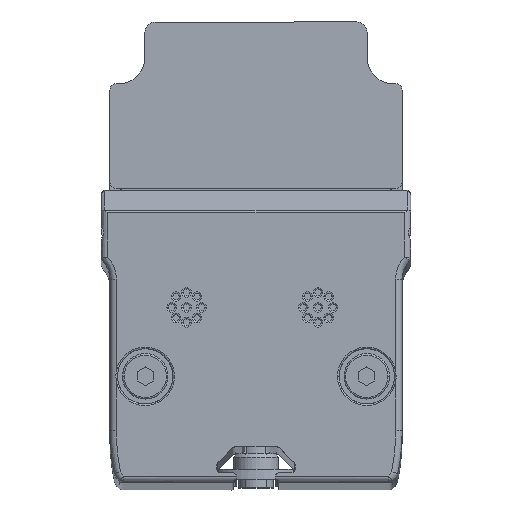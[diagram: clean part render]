
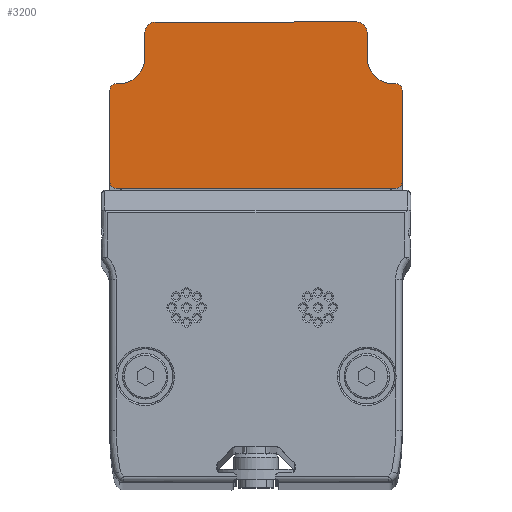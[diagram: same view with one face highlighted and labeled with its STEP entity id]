
A CAD part, top view. The second image highlights one B-rep face of the part: STEP entity #3200.
In plain terms, the highlighted planar face has unit normal (0, 0, 1).
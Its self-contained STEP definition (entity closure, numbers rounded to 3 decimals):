
#54 = ORIENTED_EDGE ( 'NONE', *, *, #11064, .T. ) ;
#389 = VERTEX_POINT ( 'NONE', #29806 ) ;
#431 = CIRCLE ( 'NONE', #2018, 1.6 ) ;
#682 = ORIENTED_EDGE ( 'NONE', *, *, #13058, .T. ) ;
#956 = VECTOR ( 'NONE', #17944, 1000. ) ;
#1405 = DIRECTION ( 'NONE',  ( 0., 0., 1. ) ) ;
#1727 = CARTESIAN_POINT ( 'NONE',  ( 21.5, 37.9, 629. ) ) ;
#1935 = ORIENTED_EDGE ( 'NONE', *, *, #29493, .F. ) ;
#2018 = AXIS2_PLACEMENT_3D ( 'NONE', #5862, #24025, #26695 ) ;
#2459 = VERTEX_POINT ( 'NONE', #20578 ) ;
#2472 = DIRECTION ( 'NONE',  ( 0., -1., 0. ) ) ;
#2947 = CARTESIAN_POINT ( 'NONE',  ( -17.1, 0., 629. ) ) ;
#3047 = DIRECTION ( 'NONE',  ( 0., 0., -1. ) ) ;
#3196 = DIRECTION ( 'NONE',  ( -1., 0., 0. ) ) ;
#3200 = ADVANCED_FACE ( 'NONE', ( #23100 ), #18306, .T. ) ;
#3256 = AXIS2_PLACEMENT_3D ( 'NONE', #23347, #3047, #3196 ) ;
#3384 = VECTOR ( 'NONE', #23831, 1000. ) ;
#3852 = CIRCLE ( 'NONE', #26564, 1. ) ;
#4373 = CARTESIAN_POINT ( 'NONE',  ( -22.5, 23.8, 629. ) ) ;
#4778 = CARTESIAN_POINT ( 'NONE',  ( -17.1, 46.8, 629. ) ) ;
#5302 = CARTESIAN_POINT ( 'NONE',  ( 22.5, 37.9, 629. ) ) ;
#5417 = EDGE_CURVE ( 'NONE', #6457, #14423, #30647, .T. ) ;
#5784 = EDGE_CURVE ( 'NONE', #31096, #25079, #22811, .T. ) ;
#5862 = CARTESIAN_POINT ( 'NONE',  ( -15.5, 46.8, 629. ) ) ;
#5940 = CARTESIAN_POINT ( 'NONE',  ( 17.1, 46.8, 629. ) ) ;
#6216 = EDGE_CURVE ( 'NONE', #20663, #9182, #28694, .T. ) ;
#6256 = EDGE_CURVE ( 'NONE', #14423, #11058, #24651, .T. ) ;
#6457 = VERTEX_POINT ( 'NONE', #15764 ) ;
#6806 = EDGE_CURVE ( 'NONE', #389, #2459, #3852, .T. ) ;
#7487 = EDGE_CURVE ( 'NONE', #31096, #19055, #17521, .T. ) ;
#7974 = ORIENTED_EDGE ( 'NONE', *, *, #7487, .F. ) ;
#7987 = ORIENTED_EDGE ( 'NONE', *, *, #18157, .T. ) ;
#8159 = AXIS2_PLACEMENT_3D ( 'NONE', #9989, #30189, #32515 ) ;
#8523 = CARTESIAN_POINT ( 'NONE',  ( -17.1, 42.9, 629. ) ) ;
#8698 = AXIS2_PLACEMENT_3D ( 'NONE', #13798, #31824, #23865 ) ;
#9017 = DIRECTION ( 'NONE',  ( 0., -1., 0. ) ) ;
#9182 = VERTEX_POINT ( 'NONE', #20494 ) ;
#9923 = CARTESIAN_POINT ( 'NONE',  ( 0., 0., 629. ) ) ;
#9989 = CARTESIAN_POINT ( 'NONE',  ( 21.1, 42.9, 629. ) ) ;
#10442 = ORIENTED_EDGE ( 'NONE', *, *, #28668, .T. ) ;
#11058 = VERTEX_POINT ( 'NONE', #23538 ) ;
#11064 = EDGE_CURVE ( 'NONE', #17054, #9182, #23479, .T. ) ;
#11620 = ORIENTED_EDGE ( 'NONE', *, *, #31702, .T. ) ;
#11801 = EDGE_LOOP ( 'NONE', ( #24988, #32374, #24703, #54, #30499, #10442, #16737, #21060, #11620, #7987, #15157, #7974, #17259, #1935, #32048, #682 ) ) ;
#11849 = CIRCLE ( 'NONE', #8159, 4. ) ;
#12555 = AXIS2_PLACEMENT_3D ( 'NONE', #23001, #27994, #20205 ) ;
#12771 = LINE ( 'NONE', #22854, #24757 ) ;
#12899 = DIRECTION ( 'NONE',  ( 1., 0., 0. ) ) ;
#13058 = EDGE_CURVE ( 'NONE', #23747, #13060, #27124, .T. ) ;
#13060 = VERTEX_POINT ( 'NONE', #21272 ) ;
#13066 = CARTESIAN_POINT ( 'NONE',  ( 17.1, 42.9, 629. ) ) ;
#13184 = DIRECTION ( 'NONE',  ( 0., 0., 1. ) ) ;
#13261 = DIRECTION ( 'NONE',  ( 0., 1., 0. ) ) ;
#13345 = DIRECTION ( 'NONE',  ( 0., 0., -1. ) ) ;
#13639 = DIRECTION ( 'NONE',  ( -1., 0., 0. ) ) ;
#13798 = CARTESIAN_POINT ( 'NONE',  ( -21.5, 23.8, 629. ) ) ;
#13848 = CARTESIAN_POINT ( 'NONE',  ( -21.1, 42.9, 629. ) ) ;
#14053 = VECTOR ( 'NONE', #28128, 1000. ) ;
#14423 = VERTEX_POINT ( 'NONE', #5302 ) ;
#14748 = VERTEX_POINT ( 'NONE', #4778 ) ;
#15157 = ORIENTED_EDGE ( 'NONE', *, *, #30434, .F. ) ;
#15207 = VERTEX_POINT ( 'NONE', #13066 ) ;
#15764 = CARTESIAN_POINT ( 'NONE',  ( 22.5, 23.8, 629. ) ) ;
#15769 = CARTESIAN_POINT ( 'NONE',  ( -22.5, 0., 629. ) ) ;
#16163 = CARTESIAN_POINT ( 'NONE',  ( 0., 48.4, 629. ) ) ;
#16584 = EDGE_CURVE ( 'NONE', #14748, #23747, #22461, .T. ) ;
#16634 = CARTESIAN_POINT ( 'NONE',  ( 17.1, 0., 629. ) ) ;
#16737 = ORIENTED_EDGE ( 'NONE', *, *, #5417, .T. ) ;
#16928 = CARTESIAN_POINT ( 'NONE',  ( 21.1, 38.9, 629. ) ) ;
#17054 = VERTEX_POINT ( 'NONE', #4373 ) ;
#17259 = ORIENTED_EDGE ( 'NONE', *, *, #5784, .T. ) ;
#17521 = CIRCLE ( 'NONE', #3256, 1.6 ) ;
#17944 = DIRECTION ( 'NONE',  ( -1., 0., 0. ) ) ;
#18064 = DIRECTION ( 'NONE',  ( 1., 0., 0. ) ) ;
#18157 = EDGE_CURVE ( 'NONE', #20148, #15207, #11849, .T. ) ;
#18306 = PLANE ( 'NONE',  #28195 ) ;
#19055 = VERTEX_POINT ( 'NONE', #5940 ) ;
#20148 = VERTEX_POINT ( 'NONE', #16928 ) ;
#20205 = DIRECTION ( 'NONE',  ( 1., 0., 0. ) ) ;
#20494 = CARTESIAN_POINT ( 'NONE',  ( -21.5, 22.8, 629. ) ) ;
#20578 = CARTESIAN_POINT ( 'NONE',  ( -22.5, 37.9, 629. ) ) ;
#20663 = VERTEX_POINT ( 'NONE', #20829 ) ;
#20706 = LINE ( 'NONE', #15769, #3384 ) ;
#20829 = CARTESIAN_POINT ( 'NONE',  ( 21.5, 22.8, 629. ) ) ;
#21060 = ORIENTED_EDGE ( 'NONE', *, *, #6256, .T. ) ;
#21272 = CARTESIAN_POINT ( 'NONE',  ( -21.1, 38.9, 629. ) ) ;
#21571 = EDGE_CURVE ( 'NONE', #17054, #2459, #20706, .T. ) ;
#21589 = LINE ( 'NONE', #16634, #29540 ) ;
#22173 = DIRECTION ( 'NONE',  ( 0., 0., 1. ) ) ;
#22358 = AXIS2_PLACEMENT_3D ( 'NONE', #13848, #13345, #31385 ) ;
#22461 = LINE ( 'NONE', #2947, #27646 ) ;
#22811 = LINE ( 'NONE', #16163, #14053 ) ;
#22854 = CARTESIAN_POINT ( 'NONE',  ( 0., 38.9, 629. ) ) ;
#23001 = CARTESIAN_POINT ( 'NONE',  ( 21.5, 23.8, 629. ) ) ;
#23100 = FACE_OUTER_BOUND ( 'NONE', #11801, .T. ) ;
#23347 = CARTESIAN_POINT ( 'NONE',  ( 15.5, 46.8, 629. ) ) ;
#23479 = CIRCLE ( 'NONE', #8698, 1. ) ;
#23538 = CARTESIAN_POINT ( 'NONE',  ( 21.5, 38.9, 629. ) ) ;
#23747 = VERTEX_POINT ( 'NONE', #8523 ) ;
#23831 = DIRECTION ( 'NONE',  ( 0., 1., 0. ) ) ;
#23865 = DIRECTION ( 'NONE',  ( 1., 0., 0. ) ) ;
#24025 = DIRECTION ( 'NONE',  ( 0., 0., -1. ) ) ;
#24130 = VECTOR ( 'NONE', #13639, 1000. ) ;
#24651 = CIRCLE ( 'NONE', #29952, 1. ) ;
#24673 = CARTESIAN_POINT ( 'NONE',  ( -21.5, 37.9, 629. ) ) ;
#24703 = ORIENTED_EDGE ( 'NONE', *, *, #21571, .F. ) ;
#24757 = VECTOR ( 'NONE', #18064, 1000. ) ;
#24988 = ORIENTED_EDGE ( 'NONE', *, *, #32093, .F. ) ;
#25079 = VERTEX_POINT ( 'NONE', #31890 ) ;
#25512 = CARTESIAN_POINT ( 'NONE',  ( 22.5, 0., 629. ) ) ;
#26464 = VECTOR ( 'NONE', #13261, 1000. ) ;
#26564 = AXIS2_PLACEMENT_3D ( 'NONE', #24673, #22173, #12899 ) ;
#26695 = DIRECTION ( 'NONE',  ( -1., 0., 0. ) ) ;
#26714 = DIRECTION ( 'NONE',  ( 1., 0., 0. ) ) ;
#27124 = CIRCLE ( 'NONE', #22358, 4. ) ;
#27646 = VECTOR ( 'NONE', #2472, 1000. ) ;
#27994 = DIRECTION ( 'NONE',  ( 0., 0., 1. ) ) ;
#28128 = DIRECTION ( 'NONE',  ( -1., 0., 0. ) ) ;
#28195 = AXIS2_PLACEMENT_3D ( 'NONE', #9923, #13184, #30726 ) ;
#28200 = CARTESIAN_POINT ( 'NONE',  ( 0., 38.9, 629. ) ) ;
#28668 = EDGE_CURVE ( 'NONE', #20663, #6457, #30514, .T. ) ;
#28694 = LINE ( 'NONE', #30687, #24130 ) ;
#29089 = CARTESIAN_POINT ( 'NONE',  ( 15.5, 48.4, 629. ) ) ;
#29493 = EDGE_CURVE ( 'NONE', #14748, #25079, #431, .T. ) ;
#29540 = VECTOR ( 'NONE', #9017, 1000. ) ;
#29806 = CARTESIAN_POINT ( 'NONE',  ( -21.5, 38.9, 629. ) ) ;
#29952 = AXIS2_PLACEMENT_3D ( 'NONE', #1727, #1405, #26714 ) ;
#30189 = DIRECTION ( 'NONE',  ( 0., 0., -1. ) ) ;
#30434 = EDGE_CURVE ( 'NONE', #19055, #15207, #21589, .T. ) ;
#30499 = ORIENTED_EDGE ( 'NONE', *, *, #6216, .F. ) ;
#30514 = CIRCLE ( 'NONE', #12555, 1. ) ;
#30532 = LINE ( 'NONE', #28200, #956 ) ;
#30647 = LINE ( 'NONE', #25512, #26464 ) ;
#30687 = CARTESIAN_POINT ( 'NONE',  ( 0., 22.8, 629. ) ) ;
#30726 = DIRECTION ( 'NONE',  ( -1., 0., 0. ) ) ;
#31096 = VERTEX_POINT ( 'NONE', #29089 ) ;
#31385 = DIRECTION ( 'NONE',  ( 1., 0., 0. ) ) ;
#31702 = EDGE_CURVE ( 'NONE', #11058, #20148, #30532, .T. ) ;
#31824 = DIRECTION ( 'NONE',  ( 0., 0., 1. ) ) ;
#31890 = CARTESIAN_POINT ( 'NONE',  ( -15.5, 48.4, 629. ) ) ;
#32048 = ORIENTED_EDGE ( 'NONE', *, *, #16584, .T. ) ;
#32093 = EDGE_CURVE ( 'NONE', #389, #13060, #12771, .T. ) ;
#32374 = ORIENTED_EDGE ( 'NONE', *, *, #6806, .T. ) ;
#32515 = DIRECTION ( 'NONE',  ( 1., 0., 0. ) ) ;
